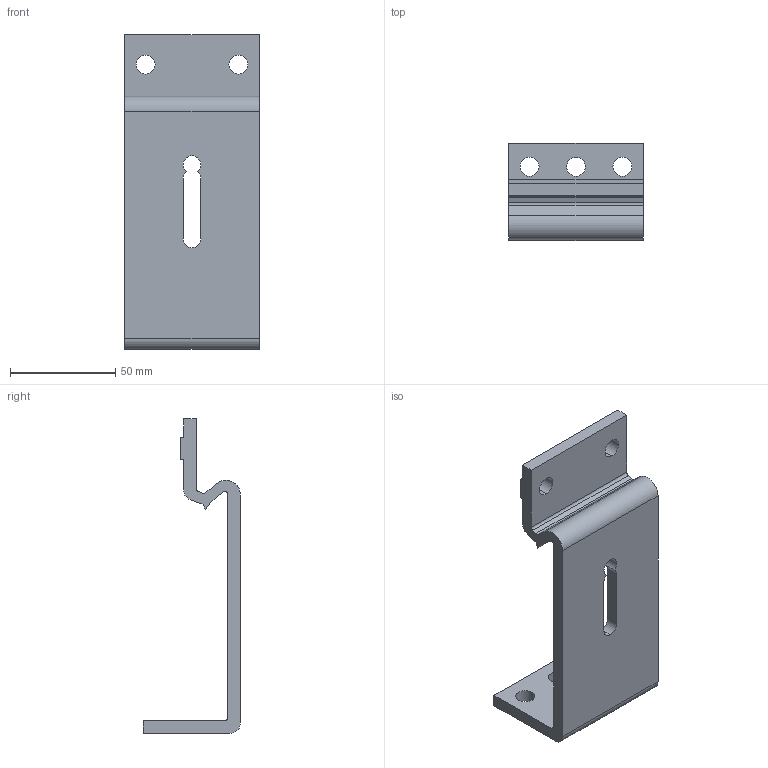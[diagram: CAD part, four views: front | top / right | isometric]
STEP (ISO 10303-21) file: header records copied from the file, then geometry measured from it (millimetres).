
FILE_DESCRIPTION (( 'STEP AP214' ), '1' );
FILE_NAME ('FABER - FAHBS 62B.STEP', '2017-04-05T12:15:46', ( '' ), ( '' ), 'SwSTEP 2.0', 'SolidWorks 2016', '' );
FILE_SCHEMA (( 'AUTOMOTIVE_DESIGN' ));
Length unit declared in the file: millimetre
Products named in the file (1): FABER - FAHBS 62B
Bounding box: 64 x 46 x 149.21 mm (x, y, z)
Volume: 77715.7 mm3; surface area: 31117.5 mm2
Topology: 1 solids, 1 shells, 44 faces, 126 edges, 84 vertices
Faces by surface type: cylinder 22, plane 22
Entity records: 1512 total; most frequent: DIRECTION 260, CARTESIAN_POINT 255, ORIENTED_EDGE 252, EDGE_CURVE 126, AXIS2_PLACEMENT_3D 89, VERTEX_POINT 84, LINE 82, VECTOR 82
